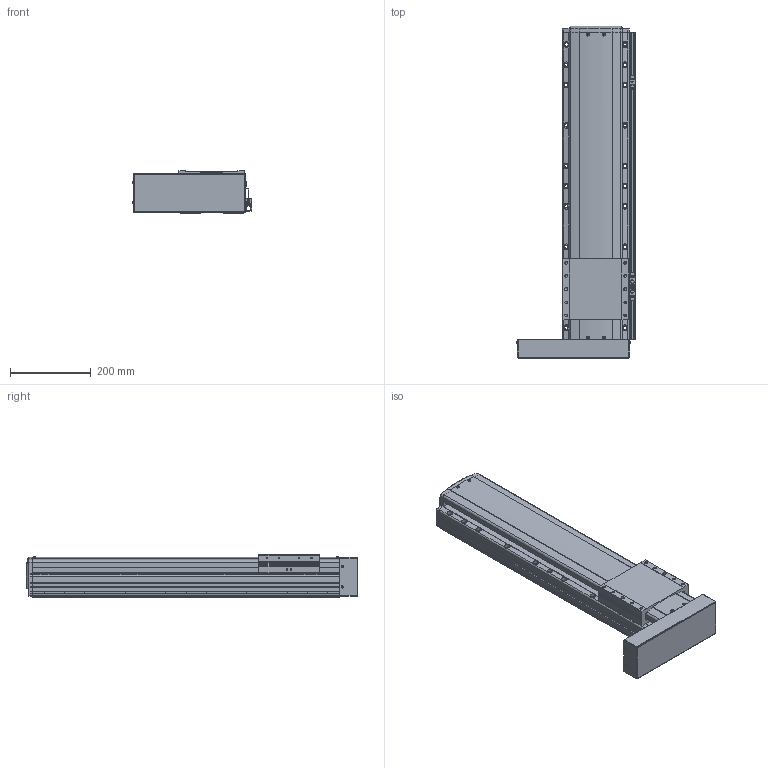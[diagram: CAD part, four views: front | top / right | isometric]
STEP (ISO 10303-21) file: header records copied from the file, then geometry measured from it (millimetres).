
FILE_DESCRIPTION(('STEP AP214'),'1');
FILE_NAME('Z:/Web/3D/PSA165/STP/PSA165-500 (3D)/PSA165ㅁㅁ-500PL+3SR.stp','2014-06-23T11:22:38',(' '),(' '),'Spatial InterOp 3D',' ',' ');
FILE_SCHEMA(('automotive_design'));
Length unit declared in the file: millimetre
Products named in the file (41): 스크루 : Round - M4.0 x 12.0; RRCV-PA160; BASE; 스크루 : Round - M4.0 x 10.0; RN15; Screw 20; SLIDE; FRCV; MTPL; 스크루 : Round - M3.0 x 6.0; M3.0 x 6.0; SRL-16x17-360L; SGD-SAN150; EE-SX674; SBK-SX674-352; BHCS M4.0 x 10.0
Bounding box: 294.46 x 820.8 x 104 mm (x, y, z)
Volume: 12058014.9 mm3; surface area: 905165.2 mm2
Topology: 41 solids, 41 shells, 2492 faces, 6669 edges, 4285 vertices
Faces by surface type: plane 1443, cylinder 735, cone 209, sphere 64, bspline 25, torus 16
Entity records: 100993 total; most frequent: CARTESIAN_POINT 17393, DIRECTION 13287, ORIENTED_EDGE 13062, EDGE_CURVE 6531, AXIS2_PLACEMENT_3D 4433, LINE 4421, VECTOR 4421, VERTEX_POINT 4285
